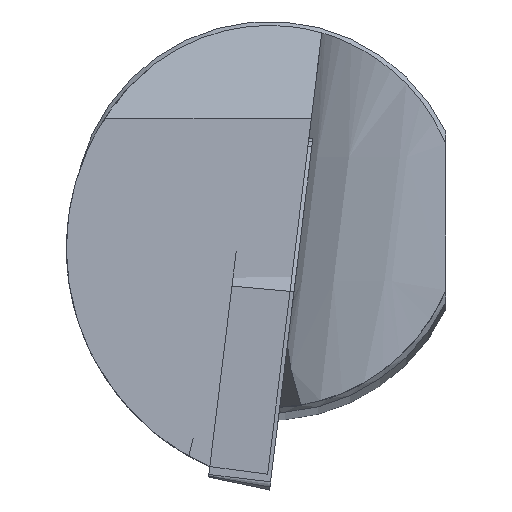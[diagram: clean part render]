
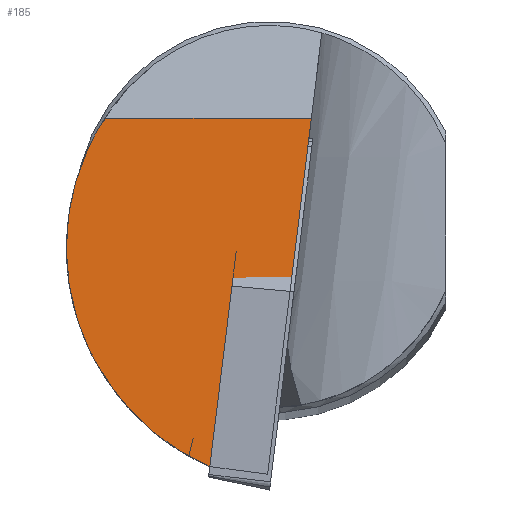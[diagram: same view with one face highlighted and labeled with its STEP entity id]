
A CAD part, top view. The second image highlights one B-rep face of the part: STEP entity #185.
In plain terms, the highlighted planar face has unit normal (0, 0.052, 0.999).
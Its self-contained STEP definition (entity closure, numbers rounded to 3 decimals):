
#111=PLANE('',#498);
#124=ELLIPSE('',#497,12.187,12.171);
#130=LINE('',#663,#157);
#131=LINE('',#666,#158);
#132=LINE('',#668,#159);
#157=VECTOR('',#542,1.);
#158=VECTOR('',#543,1.);
#159=VECTOR('',#544,1.);
#185=ADVANCED_FACE('',(#214),#111,.F.);
#214=FACE_OUTER_BOUND('',#235,.T.);
#235=EDGE_LOOP('',(#276,#277,#278,#279));
#276=ORIENTED_EDGE('',*,*,#428,.T.);
#277=ORIENTED_EDGE('',*,*,#429,.F.);
#278=ORIENTED_EDGE('',*,*,#430,.T.);
#279=ORIENTED_EDGE('',*,*,#431,.F.);
#390=VERTEX_POINT('',#664);
#391=VERTEX_POINT('',#665);
#392=VERTEX_POINT('',#667);
#393=VERTEX_POINT('',#669);
#428=EDGE_CURVE('',#390,#391,#130,.T.);
#429=EDGE_CURVE('',#392,#391,#131,.T.);
#430=EDGE_CURVE('',#392,#393,#132,.T.);
#431=EDGE_CURVE('',#390,#393,#124,.T.);
#497=AXIS2_PLACEMENT_3D('',#670,#545,#546);
#498=AXIS2_PLACEMENT_3D('',#671,#547,#548);
#542=DIRECTION('',(0.991,-0.131,0.007));
#543=DIRECTION('',(-0.122,-0.991,0.052));
#544=DIRECTION('',(-1.,0.,0.));
#545=DIRECTION('',(0.,-0.052,-0.999));
#546=DIRECTION('',(0.,-0.999,0.052));
#547=DIRECTION('',(0.,-0.052,-0.999));
#548=DIRECTION('',(0.,0.999,-0.052));
#663=CARTESIAN_POINT('',(-15.206,-11.197,-0.094));
#664=CARTESIAN_POINT('',(-3.052,-12.797,-0.01));
#665=CARTESIAN_POINT('',(-0.098,-13.186,0.01));
#666=CARTESIAN_POINT('',(3.178,13.49,-1.388));
#667=CARTESIAN_POINT('',(2.135,5.,-0.943));
#668=CARTESIAN_POINT('',(-13.35,5.,-0.943));
#669=CARTESIAN_POINT('',(-8.417,5.,-0.943));
#670=CARTESIAN_POINT('',(1.789,-1.631,-0.595));
#671=CARTESIAN_POINT('',(-13.35,-12.991,0.));
